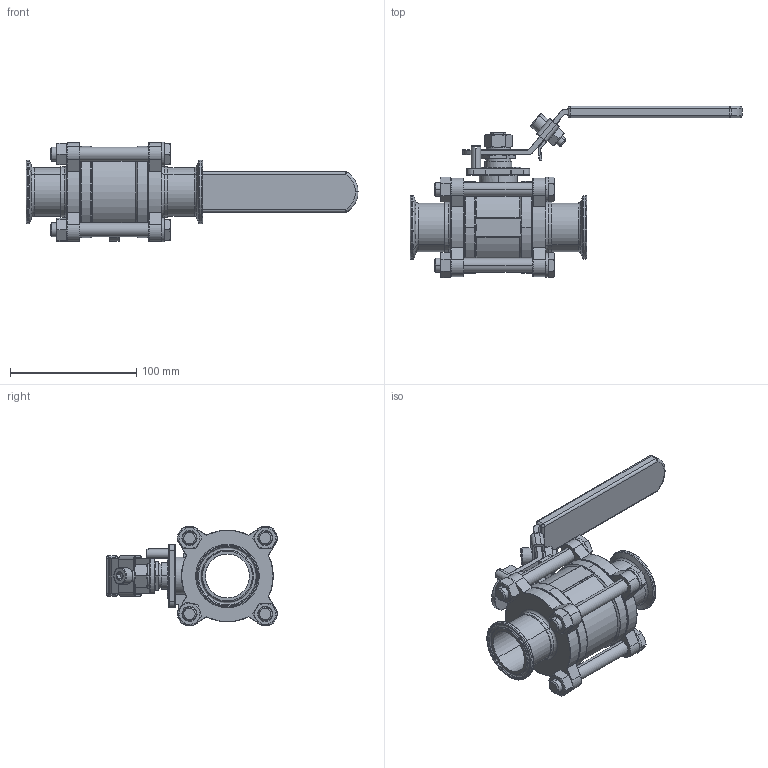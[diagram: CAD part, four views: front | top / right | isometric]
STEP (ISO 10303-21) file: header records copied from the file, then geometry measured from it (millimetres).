
FILE_DESCRIPTION (( 'STEP AP203' ), '1' );
FILE_NAME ('BAV-C-1.5.STEP', '2019-06-17T05:45:44', ( '' ), ( '' ), 'SwSTEP 2.0', 'SolidWorks 2014', '' );
FILE_SCHEMA (( 'CONFIG_CONTROL_DESIGN' ));
Length unit declared in the file: millimetre
Products named in the file (21): BAV-C-1.5; 2WAY-HANDLE WASHERS-1.5-2.0; 2WAY-STOP PIN-1.5-2.0; 2WAY-SEAT-1.5; 2WAY-HANDLE-1.5-2.0; 2WAY-BOLT NUT-1.5-2.0; 2WAY-BODY-1.5; 2WAY-STEM PACKINGS-1.5-2.0; 2WAY-BOLT-1.5; 2WAY-CAP-C-1.5; 2WAY-STEM-1.5-2.0; 2WAY-HANDLE-1.5-2.0-2; 2WAY-BOLT WASHERS-1.5-2.0; 2WAY-GASKET-1.5; 2WAY-HANDLE-1.5-2.0-3; 2WAY-HANDLE NUT-1.5-2.0; 2WAY-HANDLE-1.5-2.0-1; 2WAY-HANDLE-1.5-2.0-3-1; 2WAY-BALL-1.5; 2WAY-THRUST WASHER-1.5-2.0; 2WAY-GLAND-1.5-2.0
Assembly tree (32 placements, depth 2):
  BAV-C-1.5
    2WAY-BODY-1.5
    2WAY-BALL-1.5
    2WAY-STEM-1.5-2.0
    2WAY-THRUST WASHER-1.5-2.0
    2WAY-STEM PACKINGS-1.5-2.0
    2WAY-GLAND-1.5-2.0
    2WAY-HANDLE-1.5-2.0
    2WAY-HANDLE-1.5-2.0-1
    2WAY-HANDLE-1.5-2.0-2
    2WAY-HANDLE-1.5-2.0-3
    2WAY-HANDLE-1.5-2.0-3-1
    2WAY-BOLT-1.5  x4
    2WAY-BOLT NUT-1.5-2.0  x4
    2WAY-BOLT WASHERS-1.5-2.0  x4
    2WAY-GASKET-1.5  x2
    2WAY-SEAT-1.5  x2
    2WAY-CAP-C-1.5  x2
    2WAY-HANDLE WASHERS-1.5-2.0
    2WAY-HANDLE NUT-1.5-2.0
    2WAY-STOP PIN-1.5-2.0
Bounding box: 263.26 x 135.87 x 79.2 mm (x, y, z)
Volume: 385480.7 mm3; surface area: 188518.2 mm2
Topology: 32 solids, 32 shells, 1020 faces, 2315 edges, 1352 vertices
Faces by surface type: cylinder 370, plane 245, torus 185, cone 145, sphere 43, bspline 32
Entity records: 26025 total; most frequent: CARTESIAN_POINT 5725, DIRECTION 4089, ORIENTED_EDGE 3496, EDGE_CURVE 1748, AXIS2_PLACEMENT_3D 1731, VERTEX_POINT 1020, CIRCLE 944, EDGE_LOOP 856
